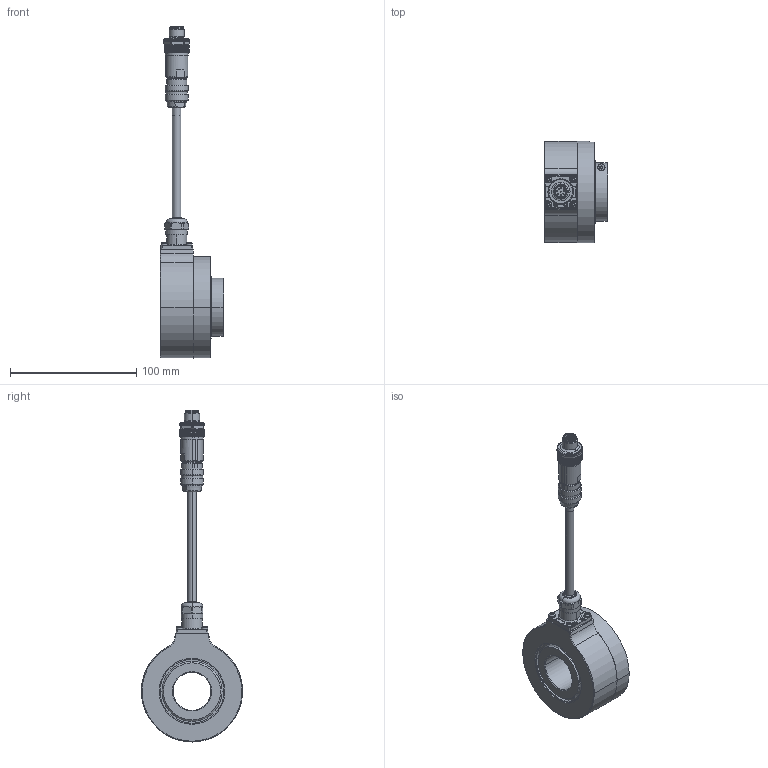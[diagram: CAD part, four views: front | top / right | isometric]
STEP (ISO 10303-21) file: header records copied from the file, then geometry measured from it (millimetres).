
FILE_DESCRIPTION (( 'STEP AP203' ), '1' );
FILE_NAME ('K80I.OXX.XXXXX.XH10830.6XR12.XXXX.step', '2025-12-09T07:22:55', ( '' ), ( '' ), 'SwSTEP 2.0', 'SolidWorks 2021', '' );
FILE_SCHEMA (( 'CONFIG_CONTROL_DESIGN' ));
Length unit declared in the file: millimetre
Products named in the file (1): K80I.OXX.XXXXX.XH10830.6XR12.XXXX
Bounding box: 50.2 x 80.15 x 262.56 mm (x, y, z)
Volume: 209859.1 mm3; surface area: 65708.2 mm2
Topology: 17 solids, 17 shells, 1533 faces, 3787 edges, 2312 vertices
Faces by surface type: plane 574, cylinder 529, cone 311, bspline 54, torus 33, sphere 32
Entity records: 48230 total; most frequent: CARTESIAN_POINT 12991, ORIENTED_EDGE 7494, DIRECTION 7261, EDGE_CURVE 3747, AXIS2_PLACEMENT_3D 2874, VERTEX_POINT 2296, EDGE_LOOP 1605, ADVANCED_FACE 1533
